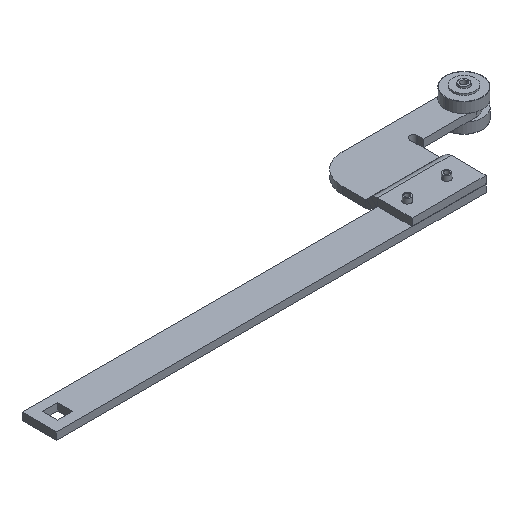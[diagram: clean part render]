
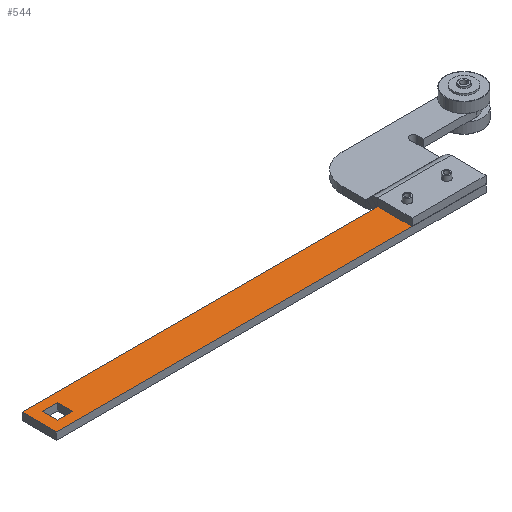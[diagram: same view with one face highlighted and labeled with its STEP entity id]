
A CAD part, isometric view. The second image highlights one B-rep face of the part: STEP entity #544.
In plain terms, the highlighted planar face has unit normal (0, 0, 1).
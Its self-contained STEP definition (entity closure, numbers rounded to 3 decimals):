
#61 = EDGE_CURVE ( 'NONE', #798, #1187, #2566, .T. ) ;
#94 = CARTESIAN_POINT ( 'NONE',  ( 0., 14., 0. ) ) ;
#107 = EDGE_LOOP ( 'NONE', ( #1218, #2266, #1066, #891 ) ) ;
#136 = DIRECTION ( 'NONE',  ( 0., 0., 1. ) ) ;
#149 = DIRECTION ( 'NONE',  ( 1., 0., 0. ) ) ;
#159 = ORIENTED_EDGE ( 'NONE', *, *, #2542, .T. ) ;
#168 = CARTESIAN_POINT ( 'NONE',  ( 147.95, 7., 0. ) ) ;
#285 = DIRECTION ( 'NONE',  ( 0., 0., 1. ) ) ;
#322 = VERTEX_POINT ( 'NONE', #1343 ) ;
#329 = CARTESIAN_POINT ( 'NONE',  ( 4.4, 3.9, 0. ) ) ;
#341 = CARTESIAN_POINT ( 'NONE',  ( 0., 0., 0. ) ) ;
#358 = AXIS2_PLACEMENT_3D ( 'NONE', #2248, #575, #2234 ) ;
#383 = ORIENTED_EDGE ( 'NONE', *, *, #1370, .F. ) ;
#481 = CARTESIAN_POINT ( 'NONE',  ( 174.5, 14., 0. ) ) ;
#483 = AXIS2_PLACEMENT_3D ( 'NONE', #588, #2517, #2063 ) ;
#486 = CARTESIAN_POINT ( 'NONE',  ( 4.4, 3.9, 0. ) ) ;
#495 = CARTESIAN_POINT ( 'NONE',  ( 174.5, 0., 0. ) ) ;
#508 = CARTESIAN_POINT ( 'NONE',  ( 0., 0., 0. ) ) ;
#517 = EDGE_CURVE ( 'NONE', #1946, #322, #2121, .T. ) ;
#544 = ADVANCED_FACE ( 'NONE', ( #2257, #1224, #1009, #1648 ), #1872, .F. ) ;
#575 = DIRECTION ( 'NONE',  ( 0., 0., 1. ) ) ;
#588 = CARTESIAN_POINT ( 'NONE',  ( 0., 0., 0. ) ) ;
#605 = CARTESIAN_POINT ( 'NONE',  ( 0., 14., 0. ) ) ;
#615 = LINE ( 'NONE', #2113, #2668 ) ;
#634 = AXIS2_PLACEMENT_3D ( 'NONE', #1845, #136, #149 ) ;
#642 = CARTESIAN_POINT ( 'NONE',  ( 167.05, 7., 0. ) ) ;
#649 = VECTOR ( 'NONE', #1750, 1000. ) ;
#686 = LINE ( 'NONE', #508, #649 ) ;
#702 = EDGE_CURVE ( 'NONE', #2038, #1568, #1518, .T. ) ;
#784 = ORIENTED_EDGE ( 'NONE', *, *, #879, .F. ) ;
#798 = VERTEX_POINT ( 'NONE', #481 ) ;
#805 = LINE ( 'NONE', #1795, #1569 ) ;
#836 = VERTEX_POINT ( 'NONE', #341 ) ;
#843 = CARTESIAN_POINT ( 'NONE',  ( 165.5, 7., 0. ) ) ;
#873 = VECTOR ( 'NONE', #1393, 1000. ) ;
#878 = VERTEX_POINT ( 'NONE', #495 ) ;
#879 = EDGE_CURVE ( 'NONE', #2578, #1320, #2425, .T. ) ;
#884 = DIRECTION ( 'NONE',  ( 0., 1., 0. ) ) ;
#891 = ORIENTED_EDGE ( 'NONE', *, *, #702, .F. ) ;
#901 = LINE ( 'NONE', #1535, #1469 ) ;
#1009 = FACE_BOUND ( 'NONE', #1642, .T. ) ;
#1010 = VERTEX_POINT ( 'NONE', #2654 ) ;
#1016 = VECTOR ( 'NONE', #1725, 1000. ) ;
#1066 = ORIENTED_EDGE ( 'NONE', *, *, #2215, .F. ) ;
#1119 = DIRECTION ( 'NONE',  ( 1., 0., 0. ) ) ;
#1135 = EDGE_LOOP ( 'NONE', ( #784, #2245 ) ) ;
#1169 = VERTEX_POINT ( 'NONE', #2619 ) ;
#1187 = VERTEX_POINT ( 'NONE', #94 ) ;
#1218 = ORIENTED_EDGE ( 'NONE', *, *, #1651, .F. ) ;
#1224 = FACE_BOUND ( 'NONE', #1135, .T. ) ;
#1286 = CARTESIAN_POINT ( 'NONE',  ( 151.05, 7., 0. ) ) ;
#1320 = VERTEX_POINT ( 'NONE', #168 ) ;
#1340 = CARTESIAN_POINT ( 'NONE',  ( 149.5, 7., 0. ) ) ;
#1343 = CARTESIAN_POINT ( 'NONE',  ( 163.95, 7., 0. ) ) ;
#1370 = EDGE_CURVE ( 'NONE', #322, #1946, #1545, .T. ) ;
#1393 = DIRECTION ( 'NONE',  ( 1., 0., 0. ) ) ;
#1430 = ORIENTED_EDGE ( 'NONE', *, *, #2467, .T. ) ;
#1469 = VECTOR ( 'NONE', #2359, 1000. ) ;
#1518 = LINE ( 'NONE', #1934, #1016 ) ;
#1535 = CARTESIAN_POINT ( 'NONE',  ( 4.4, 10.1, 0. ) ) ;
#1545 = CIRCLE ( 'NONE', #358, 1.55 ) ;
#1568 = VERTEX_POINT ( 'NONE', #486 ) ;
#1569 = VECTOR ( 'NONE', #1620, 1000. ) ;
#1586 = AXIS2_PLACEMENT_3D ( 'NONE', #843, #2311, #1684 ) ;
#1620 = DIRECTION ( 'NONE',  ( 0., -1., 0. ) ) ;
#1633 = LINE ( 'NONE', #329, #873 ) ;
#1642 = EDGE_LOOP ( 'NONE', ( #2361, #383 ) ) ;
#1647 = DIRECTION ( 'NONE',  ( 0., 1., 0. ) ) ;
#1648 = FACE_OUTER_BOUND ( 'NONE', #2710, .T. ) ;
#1651 = EDGE_CURVE ( 'NONE', #1169, #2038, #901, .T. ) ;
#1684 = DIRECTION ( 'NONE',  ( 1., 0., 0. ) ) ;
#1686 = VECTOR ( 'NONE', #1695, 1000. ) ;
#1695 = DIRECTION ( 'NONE',  ( -1., 0., 0. ) ) ;
#1725 = DIRECTION ( 'NONE',  ( 0., -1., 0. ) ) ;
#1741 = EDGE_CURVE ( 'NONE', #1320, #2578, #2382, .T. ) ;
#1750 = DIRECTION ( 'NONE',  ( 1., 0., 0. ) ) ;
#1795 = CARTESIAN_POINT ( 'NONE',  ( 0., 0., 0. ) ) ;
#1835 = ORIENTED_EDGE ( 'NONE', *, *, #2261, .T. ) ;
#1845 = CARTESIAN_POINT ( 'NONE',  ( 149.5, 7., 0. ) ) ;
#1872 = PLANE ( 'NONE',  #483 ) ;
#1913 = ORIENTED_EDGE ( 'NONE', *, *, #61, .T. ) ;
#1934 = CARTESIAN_POINT ( 'NONE',  ( 4.4, 3.9, 0. ) ) ;
#1946 = VERTEX_POINT ( 'NONE', #642 ) ;
#1968 = VECTOR ( 'NONE', #884, 1000. ) ;
#2038 = VERTEX_POINT ( 'NONE', #2355 ) ;
#2063 = DIRECTION ( 'NONE',  ( -1., 0., 0. ) ) ;
#2113 = CARTESIAN_POINT ( 'NONE',  ( 10.6, 3.9, 0. ) ) ;
#2121 = CIRCLE ( 'NONE', #1586, 1.55 ) ;
#2194 = LINE ( 'NONE', #2343, #1968 ) ;
#2215 = EDGE_CURVE ( 'NONE', #1568, #1010, #1633, .T. ) ;
#2234 = DIRECTION ( 'NONE',  ( 1., 0., 0. ) ) ;
#2245 = ORIENTED_EDGE ( 'NONE', *, *, #1741, .F. ) ;
#2248 = CARTESIAN_POINT ( 'NONE',  ( 165.5, 7., 0. ) ) ;
#2257 = FACE_BOUND ( 'NONE', #107, .T. ) ;
#2261 = EDGE_CURVE ( 'NONE', #1187, #836, #805, .T. ) ;
#2266 = ORIENTED_EDGE ( 'NONE', *, *, #2408, .F. ) ;
#2311 = DIRECTION ( 'NONE',  ( 0., 0., 1. ) ) ;
#2343 = CARTESIAN_POINT ( 'NONE',  ( 174.5, 0., 0. ) ) ;
#2355 = CARTESIAN_POINT ( 'NONE',  ( 4.4, 10.1, 0. ) ) ;
#2359 = DIRECTION ( 'NONE',  ( -1., 0., 0. ) ) ;
#2361 = ORIENTED_EDGE ( 'NONE', *, *, #517, .F. ) ;
#2382 = CIRCLE ( 'NONE', #634, 1.55 ) ;
#2408 = EDGE_CURVE ( 'NONE', #1010, #1169, #615, .T. ) ;
#2425 = CIRCLE ( 'NONE', #2555, 1.55 ) ;
#2467 = EDGE_CURVE ( 'NONE', #836, #878, #686, .T. ) ;
#2517 = DIRECTION ( 'NONE',  ( 0., 0., -1. ) ) ;
#2542 = EDGE_CURVE ( 'NONE', #878, #798, #2194, .T. ) ;
#2555 = AXIS2_PLACEMENT_3D ( 'NONE', #1340, #285, #1119 ) ;
#2566 = LINE ( 'NONE', #605, #1686 ) ;
#2578 = VERTEX_POINT ( 'NONE', #1286 ) ;
#2619 = CARTESIAN_POINT ( 'NONE',  ( 10.6, 10.1, 0. ) ) ;
#2654 = CARTESIAN_POINT ( 'NONE',  ( 10.6, 3.9, 0. ) ) ;
#2668 = VECTOR ( 'NONE', #1647, 1000. ) ;
#2710 = EDGE_LOOP ( 'NONE', ( #1835, #1430, #159, #1913 ) ) ;
